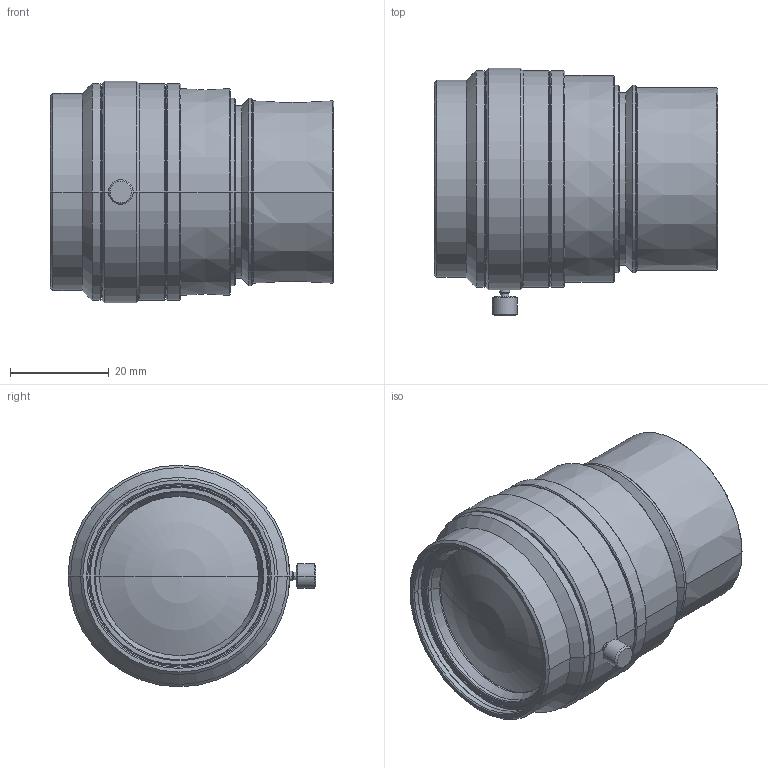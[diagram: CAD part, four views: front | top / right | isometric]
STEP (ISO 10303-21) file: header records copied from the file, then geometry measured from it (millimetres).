
FILE_DESCRIPTION (( 'STEP AP203' ), '1' );
FILE_NAME ('VS-L8540-06_V.STEP', '2017-04-26T04:13:15', ( 'miura_vst' ), ( '' ), 'SwSTEP 2.0', 'SolidWorks 2017', '' );
FILE_SCHEMA (( 'CONFIG_CONTROL_DESIGN' ));
Length unit declared in the file: millimetre
Products named in the file (1): VS-L8540-06_V
Bounding box: 57.5 x 50.3 x 45 mm (x, y, z)
Volume: 69043.7 mm3; surface area: 12097.8 mm2
Topology: 1 solids, 1 shells, 124 faces, 251 edges, 140 vertices
Faces by surface type: cone 72, cylinder 32, plane 16, torus 4
Entity records: 3284 total; most frequent: DIRECTION 635, CARTESIAN_POINT 544, ORIENTED_EDGE 494, AXIS2_PLACEMENT_3D 265, EDGE_CURVE 247, VERTEX_POINT 140, CIRCLE 140, EDGE_LOOP 139
